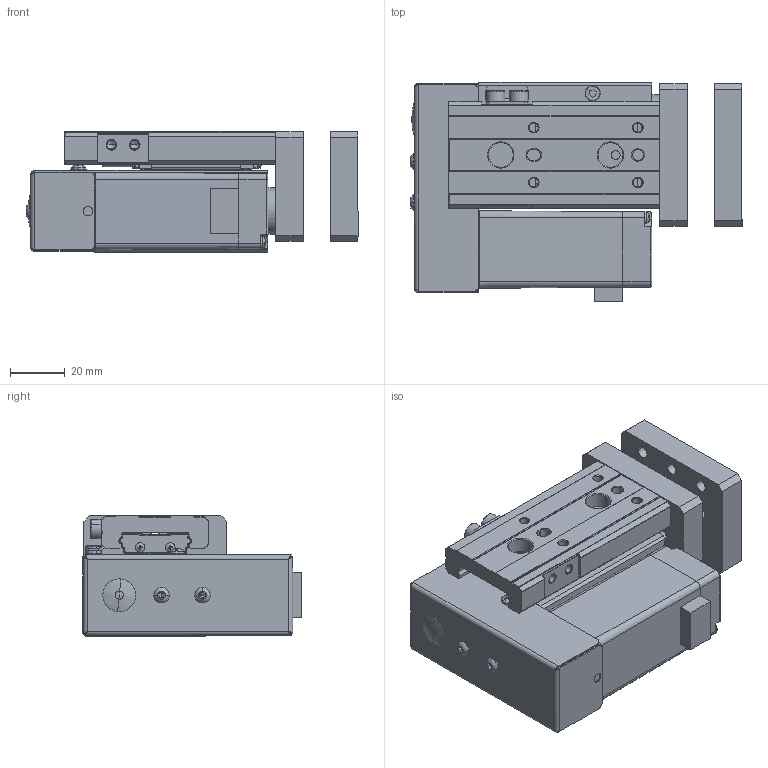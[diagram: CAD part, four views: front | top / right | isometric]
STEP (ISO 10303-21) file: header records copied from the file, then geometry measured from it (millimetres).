
FILE_DESCRIPTION (( 'STEP AP203' ), '1' );
FILE_NAME ('CSS12L-xx-20-xx-CSO-xx-xx.STEP', '2024-10-18T05:49:20', ( 'Windows User' ), ( 'P R C' ), 'SwSTEP 2.0', 'SolidWorks 2018', '' );
FILE_SCHEMA (( 'CONFIG_CONTROL_DESIGN' ));
Length unit declared in the file: millimetre
Products named in the file (17): 复件 RB-WS22015-P001  FRAME^SS12L-1.5-20（客用）; 复件 SVS-24SS12L-B002-01  BLOCK（MXQ12-30-导轨半制）^SS12L-1.5-20（客用）; 复件 十字槽盘头螺钉YM3-6^SS12L-1.5-20（客用）; 复件 SVS-24SS12L-B002-01  RAIL（MXQ12-30-滑台）^SS12L-1.5-20（客用）; 复件 RB-WS22015-P006  连接件^SS12L-1.5-20（客用）; 复件 RB-WS22015-P002  安装板^SS12L-1.5-20（客用）; 复件 RB-ES23002-P007-01  限位块^SS12L-1.5-20（客用）; 复件 RB-ES23002-B010  堵头塞子（φ8T型）^SS12L-1.5-20（客用）; 复件 MOTOR PLATE^SS12L-1.5-20（客用）; 复件 内六角杯头螺钉M3-6^SS12L-1.5-20（客用）; 复件 内六角杯头螺钉M4-12^SS12L-1.5-20（客用）; 复件 (2) 28闭环步进电机-客用3D^SS12L-1.5-20（客用）; 复件 内六角圆头螺钉M3^SS12L-1.5-20（客用）; 复件 内六角杯头螺钉M4-10^SS12L-1.5-20（客用）; 复件 内六角杯头螺钉M4-8^SS12L-1.5-20（客用）; 复件 COVER END^SS12L-1.5-20（客用）; CSS12L-xx-20-xx-CSO-xx-xx
Assembly tree (20 placements, depth 2):
  CSS12L-xx-20-xx-CSO-xx-xx
    复件 RB-WS22015-P001  FRAME^SS12L-1.5-20（客用）
    复件 RB-WS22015-P002  安装板^SS12L-1.5-20（客用）  x2
    复件 RB-WS22015-P006  连接件^SS12L-1.5-20（客用）
    复件 (2) 28闭环步进电机-客用3D^SS12L-1.5-20（客用）
    复件 内六角杯头螺钉M4-12^SS12L-1.5-20（客用）  x2
    复件 内六角杯头螺钉M4-10^SS12L-1.5-20（客用）
    复件 十字槽盘头螺钉YM3-6^SS12L-1.5-20（客用）
    复件 内六角杯头螺钉M4-8^SS12L-1.5-20（客用）  x2
    复件 内六角杯头螺钉M3-6^SS12L-1.5-20（客用）
    复件 RB-ES23002-P007-01  限位块^SS12L-1.5-20（客用）
    复件 RB-ES23002-B010  堵头塞子（φ8T型）^SS12L-1.5-20（客用）
    复件 MOTOR PLATE^SS12L-1.5-20（客用）
    复件 COVER END^SS12L-1.5-20（客用）
    复件 SVS-24SS12L-B002-01  BLOCK（MXQ12-30-导轨半制）^SS12L-1.5-20（客用）
    复件 SVS-24SS12L-B002-01  RAIL（MXQ12-30-滑台）^SS12L-1.5-20（客用）
    复件 内六角圆头螺钉M3^SS12L-1.5-20（客用）  x2
Bounding box: 121.15 x 79.88 x 44 mm (x, y, z)
Volume: 220501.3 mm3; surface area: 76167 mm2
Topology: 62 solids, 62 shells, 1378 faces, 3348 edges, 1980 vertices
Faces by surface type: plane 537, cylinder 459, bspline 174, cone 172, torus 30, sphere 6
Entity records: 41144 total; most frequent: CARTESIAN_POINT 11072, DIRECTION 5831, ORIENTED_EDGE 5828, EDGE_CURVE 2914, AXIS2_PLACEMENT_3D 2124, VERTEX_POINT 1818, VECTOR 1583, LINE 1583
